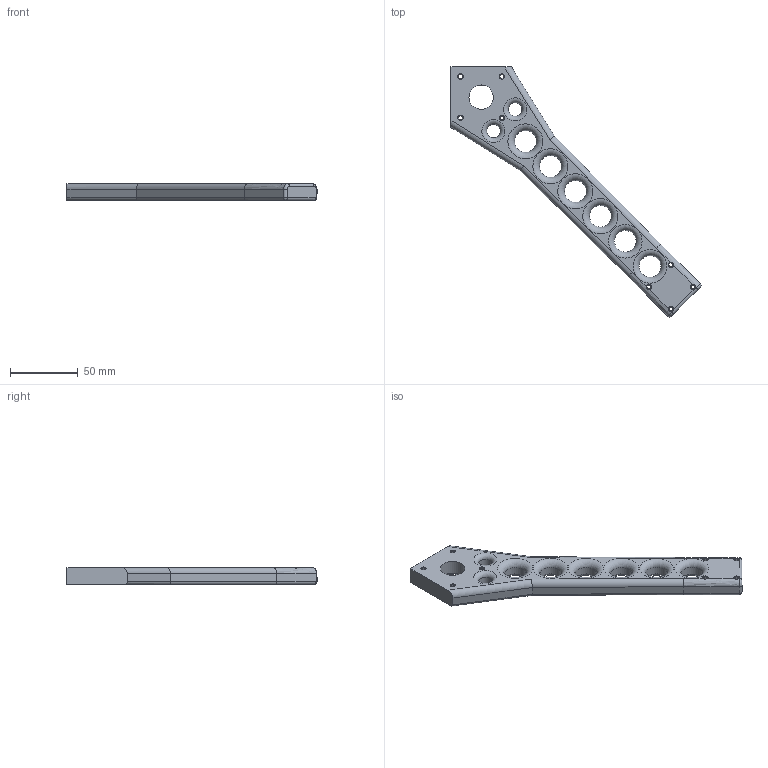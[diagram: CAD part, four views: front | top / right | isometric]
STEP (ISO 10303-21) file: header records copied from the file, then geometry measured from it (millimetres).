
FILE_DESCRIPTION(('FreeCAD Model'),'2;1');
FILE_NAME('Open CASCADE Shape Model','2026-08-18T21:14:37',('Author'),( ''),'Open CASCADE STEP processor 7.8','FreeCAD','Unknown');
FILE_SCHEMA(('AUTOMOTIVE_DESIGN { 1 0 10303 214 1 1 1 1 }'));
Length unit declared in the file: millimetre
Products named in the file (1): Body
Bounding box: 184.09 x 184.09 x 12.5 mm (x, y, z)
Volume: 90074.7 mm3; surface area: 25956.8 mm2
Topology: 1 solids, 1 shells, 84 faces, 206 edges, 118 vertices
Faces by surface type: cylinder 31, torus 16, cone 14, plane 11, bspline 10, extrusion 2
Full cylindrical faces by diameter (mm): 2.95 x8, 10 x2, 16 x6, 18 x1
Entity records: 3234 total; most frequent: CARTESIAN_POINT 1207, DIRECTION 428, ORIENTED_EDGE 408, EDGE_CURVE 204, AXIS2_PLACEMENT_3D 172, VERTEX_POINT 118, FACE_BOUND 114, EDGE_LOOP 114
